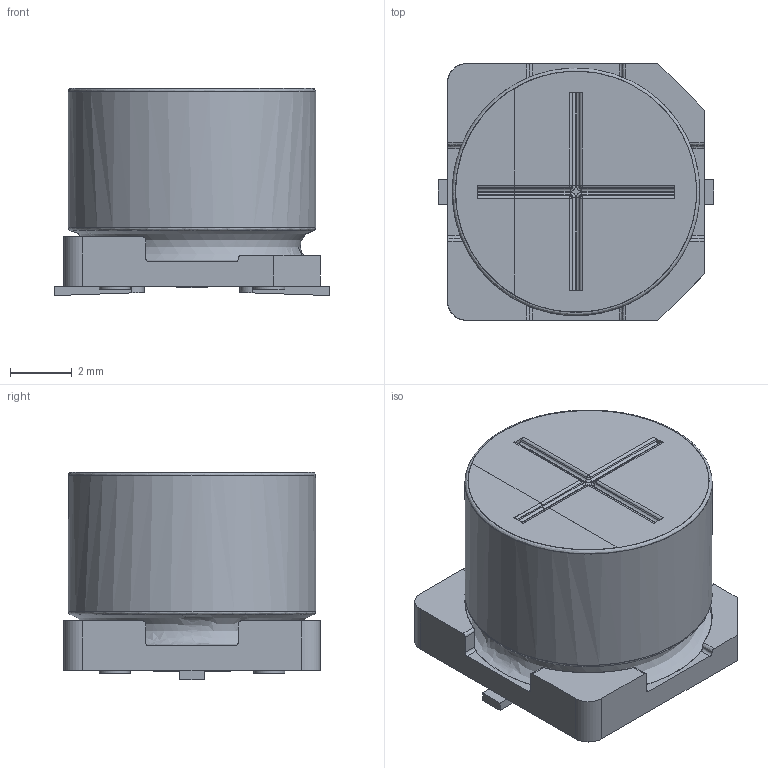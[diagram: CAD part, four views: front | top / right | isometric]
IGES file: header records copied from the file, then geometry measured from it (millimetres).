
Start section: JAMA-IS VERSION  1.0
Bounding box: 8.9 x 8.3 x 6.7 mm (x, y, z)
Surface area: 460.6 mm2 (no closed solid volume)
Topology: 0 solids, 0 shells, 132 faces, 1288 edges, 1270 vertices
Faces by surface type: bspline 132
